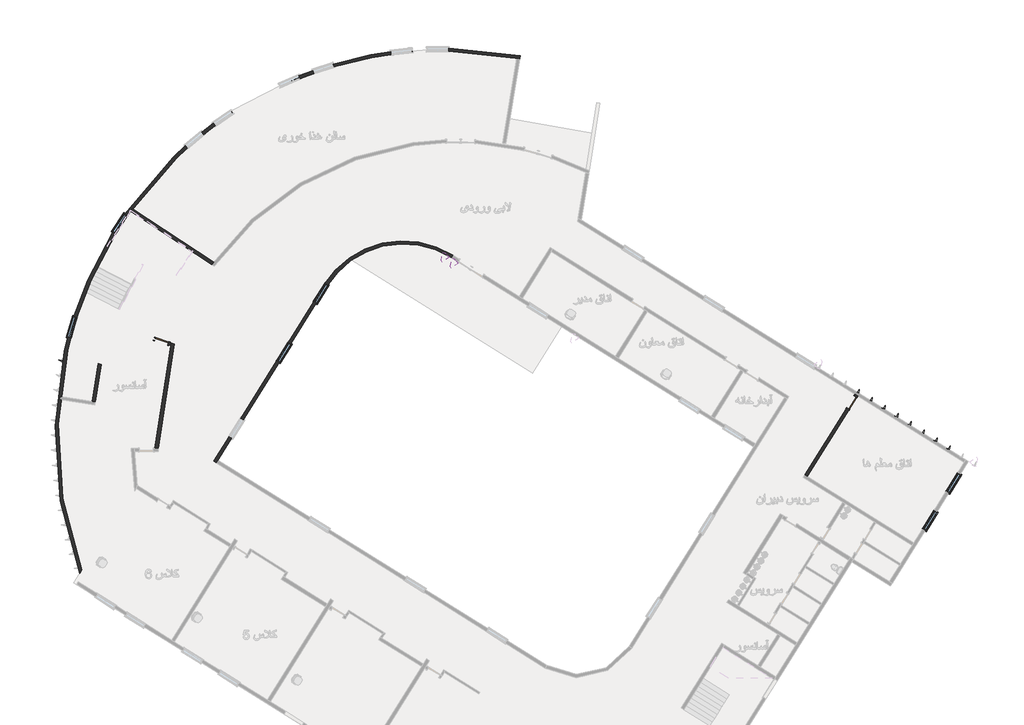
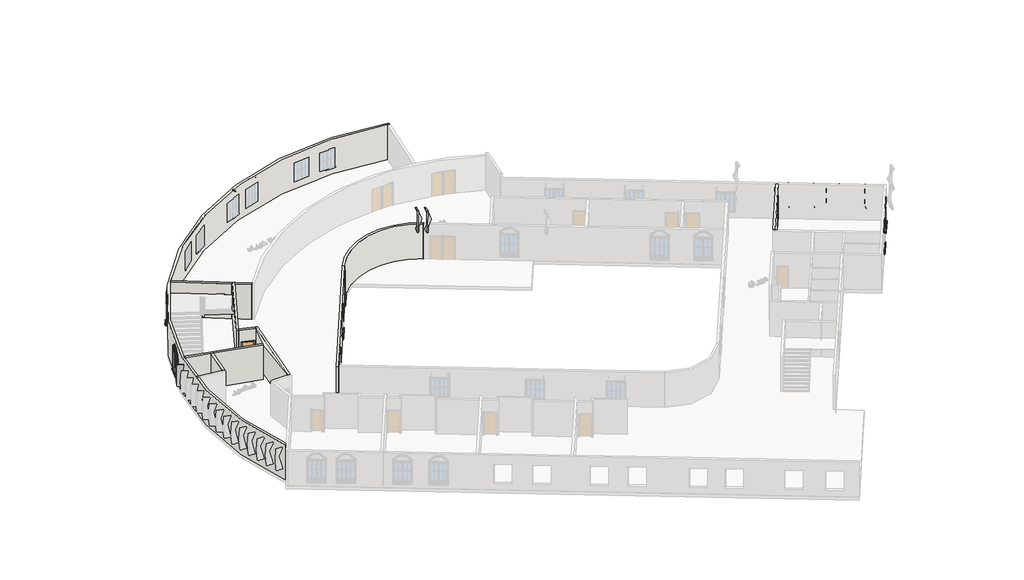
# One storey, part 3 of 12: 11 plates, 11 walls, 6 windows, 2 doors.
"""IFC4 building model written with IfcOpenShell, lengths in millimetres."""

from ifc_helpers import new_model, si_unit, point, frame, frame_2d, origin, origin_with_axes, place, context, project, spatial, polyline, circle_curve, trimmed, segment, composite_curve, outline, extrude, faceted_brep, transform, mapped, element, save
from ifc_brep_helpers import plane_surface, cylinder_surface, revolved_surface, advanced_brep
from components import m_single_flush_0915_x_2134mm_727434cd, plate_91021fb5, plate_51c6a2b6, plate_53e44fb4, m_window_casement_double_1400_x_1800mm_877d247a, m_window_casement_double_1400_x_1800mm_eb8f2d9a

model = new_model("IFC4")

# Units and contexts
model_context = context("Model", 3, world=origin())
ifc_project = project(units=[si_unit("LENGTHUNIT", "METRE", prefix="MILLI")], contexts=[model_context])

# Site, building, storey
site = spatial("IfcSite", under=ifc_project)
building = spatial("IfcBuilding", under=site)
storey = spatial("IfcBuildingStorey", under=building, Name="\u200fهمکف", Elevation=0.0)

# Doors
placement = place(None, origin())
m_single_flush_0915_x_2134mm_shape = m_single_flush_0915_x_2134mm_727434cd(model_context)
element("IfcDoor", 1, ObjectType="M_Single-Flush : 0915 x 2134mm", at=placement, inside=storey, context=model_context, shape_type="MappedRepresentation", body=[
    mapped(m_single_flush_0915_x_2134mm_shape, transform((55171.0095741, -32166.2746094, 0.0), x_axis=(0.5299192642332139, 0.8480480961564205, 0.0), y_axis=(-0.8480480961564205, 0.5299192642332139, 0.0), z_axis=(0.0, 0.0, 1.0))),
])
element("IfcDoor", 2, ObjectType="M_Single-Flush : 0915 x 2134mm", at=placement, inside=storey, context=model_context, shape_type="MappedRepresentation", body=[
    mapped(m_single_flush_0915_x_2134mm_shape, transform((10046.2970792, -28155.5122882, 0.0), x_axis=(-0.9492034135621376, 0.3146631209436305, 0.0), y_axis=(-0.3146631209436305, -0.9492034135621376, 0.0), z_axis=(0.0, 0.0, 1.0))),
])

# Plates
plate_shape = plate_91021fb5(model_context)
element("IfcPlate", 3, ObjectType="مدل پارامتریک کصینوس دار : مدل پارامتریک کصینوس دار", at=placement, inside=storey, context=model_context, shape_type="MappedRepresentation", body=[
    mapped(plate_shape, transform((26625.6475224, -21808.0883289, -150.0), x_axis=(0.0, 0.0, 1.0), y_axis=(0.848048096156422, -0.5299192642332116, 0.0), z_axis=(0.5299192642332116, 0.848048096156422, 0.0))),
])
element("IfcPlate", 4, ObjectType="مدل پارامتریک کصینوس دار : مدل پارامتریک کصینوس دار", at=placement, inside=storey, context=model_context, shape_type="MappedRepresentation", body=[
    mapped(plate_shape, transform((63342.6086999, -35789.6396169, -2050.0), x_axis=(0.0, 0.0, 1.0), y_axis=(-0.8480480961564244, 0.5299192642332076, 0.0), z_axis=(-0.5299192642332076, -0.8480480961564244, 0.0))),
])
element("IfcPlate", 5, ObjectType="مدل پارامتریک کصینوس دار : مدل پارامتریک کصینوس دار", at=placement, inside=storey, context=model_context, shape_type="MappedRepresentation", body=[
    mapped(plate_shape, transform((62494.5606037, -35259.7203527, -2050.0), x_axis=(0.0, 0.0, 1.0), y_axis=(-0.8480480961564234, 0.5299192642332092, 0.0), z_axis=(-0.5299192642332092, -0.8480480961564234, 0.0))),
])
element("IfcPlate", 6, ObjectType="مدل پارامتریک کصینوس دار : مدل پارامتریک کصینوس دار", at=placement, inside=storey, context=model_context, shape_type="MappedRepresentation", body=[
    mapped(plate_shape, transform((61646.5125076, -34729.8010885, -2050.0), x_axis=(0.0, 0.0, 1.0), y_axis=(-0.8480480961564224, 0.5299192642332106, 0.0), z_axis=(-0.5299192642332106, -0.8480480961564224, 0.0))),
])
element("IfcPlate", 7, ObjectType="مدل پارامتریک کصینوس دار : مدل پارامتریک کصینوس دار", at=placement, inside=storey, context=model_context, shape_type="MappedRepresentation", body=[
    mapped(plate_shape, transform((60798.4644114, -34199.8818242, -2050.0), x_axis=(0.0, 0.0, 1.0), y_axis=(-0.8480480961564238, 0.5299192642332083, 0.0), z_axis=(-0.5299192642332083, -0.8480480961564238, 0.0))),
])
element("IfcPlate", 8, ObjectType="مدل پارامتریک کصینوس دار : مدل پارامتریک کصینوس دار", at=placement, inside=storey, context=model_context, shape_type="MappedRepresentation", body=[
    mapped(plate_shape, transform((59950.4163152, -33669.96256, -2050.0), x_axis=(0.0, 0.0, 1.0), y_axis=(-0.8480480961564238, 0.5299192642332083, 0.0), z_axis=(-0.5299192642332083, -0.8480480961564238, 0.0))),
])
element("IfcPlate", 9, ObjectType="مدل پارامتریک کصینوس دار : مدل پارامتریک کصینوس دار", at=placement, inside=storey, context=model_context, shape_type="MappedRepresentation", body=[
    mapped(plate_shape, transform((59102.3682191, -33140.0432958, -2050.0), x_axis=(0.0, 0.0, 1.0), y_axis=(-0.8480480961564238, 0.5299192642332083, 0.0), z_axis=(-0.5299192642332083, -0.8480480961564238, 0.0))),
])
element("IfcPlate", 10, ObjectType="مدل پارامتریک کصینوس دار : مدل پارامتریک کصینوس دار", at=placement, inside=storey, context=model_context, shape_type="MappedRepresentation", body=[
    mapped(plate_shape, transform((58254.3201229, -32610.1240315, -2050.0), x_axis=(0.0, 0.0, 1.0), y_axis=(-0.848048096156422, 0.5299192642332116, 0.0), z_axis=(-0.5299192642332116, -0.848048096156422, 0.0))),
])
element("IfcPlate", 11, ObjectType="مدل پارامتریک کصینوس دار : مدل پارامتریک کصینوس دار", at=placement, inside=storey, context=model_context, shape_type="MappedRepresentation", body=[
    mapped(plate_shape, transform((57406.2720268, -32080.2047673, -2050.0), x_axis=(0.0, 0.0, 1.0), y_axis=(-0.8480480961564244, 0.5299192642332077, 0.0), z_axis=(-0.5299192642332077, -0.8480480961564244, 0.0))),
])
plate_2_shape = plate_51c6a2b6(model_context)
element("IfcPlate", 12, ObjectType="مدل پارامتریک کصینوس دار : مدل پارامتریک کصینوس دار", at=placement, inside=storey, context=model_context, shape_type="MappedRepresentation", body=[
    mapped(plate_2_shape, transform((2685.5211159, -31173.1049186, -2050.0), x_axis=(0.0, 0.0, 1.0), y_axis=(-0.19897681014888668, -0.9800041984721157, 0.0), z_axis=(0.9800041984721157, -0.19897681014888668, 0.0))),
])
plate_3_shape = plate_53e44fb4(model_context)
element("IfcPlate", 13, ObjectType="مدل پارامتریک کصینوس دار : مدل پارامتریک کصینوس دار", at=placement, inside=storey, context=model_context, shape_type="MappedRepresentation", body=[
    mapped(plate_3_shape, transform((27271.2692845, -22118.8291782, -150.0), x_axis=(0.0, 0.0, 1.0), y_axis=(0.8215058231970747, -0.5702001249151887, 0.0), z_axis=(0.5702001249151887, 0.8215058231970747, 0.0))),
])

# Walls
element("IfcWall", 14, ObjectType="Generic - 200mm", at=placement, inside=storey, context=model_context, shape_type="SweptSolid", body=[
    extrude(outline(composite_curve([segment(polyline([(13319.2946092, -23124.9971226), (8007.113091, -19649.1953048)]), True, "CONTINUOUS"), segment(trimmed(circle_curve(frame_2d((28463.2186017, -34366.1157481)), 25200.0), [point((8007.113091, -19649.1953048))], [point((8124.6948433, -19487.1221218))], False, "CARTESIAN"), True, "CONTINUOUS"), segment(polyline([(8124.6948433, -19487.1221218), (13437.2528486, -22963.1702781)]), True, "CONTINUOUS"), segment(trimmed(circle_curve(frame_2d((29284.4488792, -34638.3554793)), 19683.5863478), [point((13437.2528486, -22963.1702781))], [point((13319.2946092, -23124.9971226))], True, "CARTESIAN"), True, "CONTINUOUS")], self_intersect=False)), origin_with_axes(), (0.0, 0.0, 1.0), 3300.0),
])
element("IfcWall", 15, ObjectType="Generic - 200mm", at=placement, inside=storey, context=model_context, shape_type="AdvancedBrep", body=[
    advanced_brep(
    [(12127.9583762, -22106.4886885, 0.0), (12295.5409419, -22216.1392689, 0.0), (9371.3471797, -27826.3938849, 0.0), (9307.5063397, -28015.9529504, 0.0), (9117.665657, -27953.0203262, 0.0), (12010.6126533, -22268.7384634, 0.0), (9117.665657, -27953.0203262, 3300.0), (12010.6232883, -22268.7232659, 3300.0), (12127.9583762, -22106.4886885, 3300.0), (12295.5409419, -22216.1392689, 3300.0), (9371.3410113, -27826.4112985, 3300.0), (9307.5063397, -28015.9529504, 3300.0)],
    [
        (0, 1),
        (1, 2, circle_curve(frame((29284.4488792, -34638.3554793, 0.0), z_axis=(0.0, 0.0, 1.0), x_axis=(1.0, 0.0, 0.0)), 21046.0078989)),
        (2, 3, circle_curve(frame((29284.4488792, -34638.3554793, 0.0), z_axis=(0.0, 0.0, 1.0), x_axis=(1.0, 0.0, 0.0)), 21046.0076988)),
        (3, 4),
        (4, 5, circle_curve(frame((29284.4488792, -34638.3554793, 0.0), z_axis=(0.0, 0.0, -1.0), x_axis=(1.0, 0.0, 0.0)), 21246.0078989)),
        (5, 0, circle_curve(frame((29284.4488792, -34638.3554793, 0.0), z_axis=(0.0, 0.0, -1.0), x_axis=(1.0, 0.0, 0.0)), 21246.0076974)),
        (6, 7, circle_curve(frame((29284.4488792, -34638.3554793, 3300.0), z_axis=(0.0, 0.0, -1.0), x_axis=(1.0, 0.0, 0.0)), 21246.0078989)),
        (7, 8, circle_curve(frame((29284.4488792, -34638.3554793, 3300.0), z_axis=(0.0, 0.0, -1.0), x_axis=(1.0, 0.0, 0.0)), 21246.0078989)),
        (8, 0),
        (4, 6),
        (9, 10, circle_curve(frame((29284.4488792, -34638.3554793, 3300.0), z_axis=(0.0, 0.0, 1.0), x_axis=(1.0, 0.0, 0.0)), 21046.0078989)),
        (10, 11, circle_curve(frame((29284.4488792, -34638.3554793, 3300.0), z_axis=(0.0, 0.0, 1.0), x_axis=(1.0, 0.0, 0.0)), 21046.0078989)),
        (11, 3),
        (1, 9),
        (8, 9),
        (11, 6),
    ],
    [
        plane_surface(frame((50530.456778, -34638.3554793, 0.0), z_axis=(0.0, 0.0, -1.0), x_axis=(0.0, -1.0, 0.0))),
        cylinder_surface(frame((29284.4488792, -34638.3554793, 0.0), z_axis=(0.0, 0.0, 1.0), x_axis=(1.0, 0.0, 0.0)), 21246.0078989),
        revolved_surface(polyline([(50330.4567781, -34638.3554793, 0.0), (50330.4567781, -34638.3554793, 3300.0)]), (29284.4488792, -34638.3554793, 0.0), (0.0, 0.0, -1.0)),
        plane_surface(frame((8116.6170805, -19481.8367786, 0.0), z_axis=(0.5475199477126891, 0.8367926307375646, 0.0), x_axis=(-0.8367926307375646, 0.5475199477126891, 0.0))),
        plane_surface(frame((9117.665657, -27953.0203262, 0.0), z_axis=(-0.3146631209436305, -0.9492034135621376, 0.0), x_axis=(0.9492034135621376, -0.3146631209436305, 0.0))),
        plane_surface(frame((48968.0352269, -34638.3554793, 3300.0), z_axis=(0.0, 0.0, 1.0), x_axis=(0.0, -1.0, 0.0))),
    ],
    [
        (0, [[1, 2, 3, 4, 5, 6]]),
        (1, [[7, 8, 9, -6, -5, 10]]),
        (2, [[11, 12, 13, -3, -2, 14]]),
        (3, [[15, -14, -1, -9]]),
        (4, [[16, -10, -4, -13]]),
        (5, [[-8, -7, -16, -12, -11, -15]]),
    ],
),
])
element("IfcWall", 16, ObjectType="Generic - 200mm", at=placement, inside=storey, context=model_context, shape_type="AdvancedBrep", body=[
    advanced_brep(
    [(4833.0156697, -43121.3147404, 0.0), (4699.4334687, -43335.0909491, 0.0), (33492.5116112, -9469.0032283, 0.0), (33459.5130175, -9666.378055, 0.0), (33263.2219556, -9627.4828404, 0.0), (8124.69366, -19487.1238855, 0.0), (8007.1162807, -19649.1909014, 0.0), (3860.998434, -28909.8570334, 0.0), (3818.4498051, -29105.3777655, 0.0), (33459.5130174, -9666.378055, 3300.0), (33445.1559838, -9663.4782387, 3300.0), (33263.2393764, -9627.4860253, 3300.0), (8124.6960917, -19487.1204154, 3300.0), (8007.1143219, -19649.1935938, 3300.0), (3860.9973962, -28909.8613774, 3300.0), (3818.45007, -29105.3758743, 3300.0), (4833.0156697, -43121.3147404, 3300.0), (7029.6837379, -21113.0563563, 2400.0), (7798.757144, -19943.2161553, 2400.0), (7798.757144, -19943.2161553, 600.0), (7029.6837379, -21113.0563563, 600.0), (4098.1748863, -27933.025919, 2400.0), (4493.0312318, -26589.8623152, 2400.0), (4493.0312318, -26589.8623152, 600.0), (4098.1748863, -27933.025919, 600.0), (11729.9960516, -15523.6301613, 2400.0), (12802.2197429, -14623.4433164, 2400.0), (12802.2197429, -14623.4433164, 600.0), (11729.9960516, -15523.6301613, 600.0), (13544.9912576, -14056.3522608, 2400.0), (14695.8980144, -13259.2238915, 2400.0), (14695.8980144, -13259.2238915, 600.0), (13544.9912576, -14056.3522608, 600.0), (17817.6703365, -11525.093395, 2400.0), (19102.5546812, -10969.1507533, 2400.0), (19102.5546812, -10969.1507533, 600.0), (17817.6703365, -11525.093395, 600.0), (19990.273139, -10633.2441312, 2400.0), (21321.3327638, -10199.3313803, 2400.0), (21321.3327638, -10199.3313803, 600.0), (19990.273139, -10633.2441312, 600.0), (26422.9341497, -9248.8460049, 2400.0), (26422.9341497, -9248.8460049, 600.0), (25031.2173163, -9400.912621, 600.0), (25031.2173163, -9400.912621, 2400.0), (27403.092335, -9188.4245851, 2400.0), (28802.949203, -9168.4058697, 2400.0), (28802.949203, -9168.4058697, 600.0), (27403.092335, -9188.4245851, 600.0), (4699.4334687, -43335.0909491, 3300.0), (33476.5898768, -9465.7922872, 3300.0), (33492.5116112, -9469.0032283, 3300.0), (6862.4985942, -21003.1484444, 2400.0), (6862.4985942, -21003.1484444, 600.0), (7631.5731109, -19833.3064482, 600.0), (7631.5743187, -19833.3047169, 2400.0), (3906.2203449, -27876.5983071, 2400.0), (3906.2203449, -27876.5983071, 600.0), (4301.0772297, -26533.4326624, 600.0), (4301.0778806, -26533.4306544, 2400.0), (11601.3471011, -15370.398086, 2400.0), (11601.3471011, -15370.398086, 600.0), (12673.5723712, -14470.2098397, 600.0), (12673.5740247, -14470.2085275, 2400.0), (13431.0704621, -13891.8752906, 2400.0), (13431.0704621, -13891.8752906, 600.0), (14581.9789205, -13094.745672, 600.0), (14581.9806883, -13094.7445184, 2400.0), (17738.2176288, -11341.4690813, 2400.0), (17738.2176288, -11341.4690813, 600.0), (19023.103887, -10785.5255483, 600.0), (19023.1058467, -10785.5247637, 2400.0), (19928.2598747, -10443.0206405, 2400.0), (19928.2598747, -10443.0206405, 600.0), (21259.3214877, -10009.1071803, 600.0), (21259.3235119, -10009.1065816, 2400.0), (26401.2020275, -9049.9531707, 2400.0), (25009.4851941, -9202.0197868, 2400.0), (25009.4831028, -9202.0200738, 600.0), (26401.2020275, -9049.9531707, 600.0), (27400.2293141, -8988.3685318, 2400.0), (27400.2293141, -8988.3685318, 600.0), (28800.0882913, -8968.349728, 600.0), (28800.090402, -8968.349756, 2400.0)],
    [
        (0, 1),
        (1, 2, circle_curve(frame((28463.2186017, -34366.1157481, 0.0), z_axis=(0.0, 0.0, -1.0), x_axis=(1.0, 0.0, 0.0)), 25400.0)),
        (2, 3),
        (3, 4, circle_curve(frame((28463.2186017, -34366.1157481, 0.0), z_axis=(0.0, 0.0, 1.0), x_axis=(1.0, 0.0, 0.0)), 25200.0)),
        (4, 5, circle_curve(frame((28463.2186017, -34366.1157481, 0.0), z_axis=(0.0, 0.0, 1.0), x_axis=(1.0, 0.0, 0.0)), 25199.9998083)),
        (5, 6, circle_curve(frame((28463.2186017, -34366.1157481, 0.0), z_axis=(0.0, 0.0, 1.0), x_axis=(1.0, 0.0, 0.0)), 25199.9999137)),
        (6, 7, circle_curve(frame((28463.2186017, -34366.1157481, 0.0), z_axis=(0.0, 0.0, 1.0), x_axis=(1.0, 0.0, 0.0)), 25199.9999823)),
        (7, 8, circle_curve(frame((28463.2186017, -34366.1157481, 0.0), z_axis=(0.0, 0.0, 1.0), x_axis=(1.0, 0.0, 0.0)), 25199.9999274)),
        (8, 0, circle_curve(frame((28463.2186017, -34366.1157481, 0.0), z_axis=(0.0, 0.0, 1.0), x_axis=(1.0, 0.0, 0.0)), 25199.9998642)),
        (9, 10, circle_curve(frame((28463.2186017, -34366.1157481, 3300.0), z_axis=(0.0, 0.0, 1.0), x_axis=(1.0, 0.0, 0.0)), 25200.0)),
        (10, 11, circle_curve(frame((28463.2186017, -34366.1157481, 3300.0), z_axis=(0.0, 0.0, 1.0), x_axis=(1.0, 0.0, 0.0)), 25200.0)),
        (11, 12, circle_curve(frame((28463.2186017, -34366.1157481, 3300.0), z_axis=(0.0, 0.0, 1.0), x_axis=(1.0, 0.0, 0.0)), 25200.0)),
        (12, 13, circle_curve(frame((28463.2186017, -34366.1157481, 3300.0), z_axis=(0.0, 0.0, 1.0), x_axis=(1.0, 0.0, 0.0)), 25200.0)),
        (13, 14, circle_curve(frame((28463.2186017, -34366.1157481, 3300.0), z_axis=(0.0, 0.0, 1.0), x_axis=(1.0, 0.0, 0.0)), 25200.0)),
        (14, 15, circle_curve(frame((28463.2186017, -34366.1157481, 3300.0), z_axis=(0.0, 0.0, 1.0), x_axis=(1.0, 0.0, 0.0)), 25200.0)),
        (15, 16, circle_curve(frame((28463.2186017, -34366.1157481, 3300.0), z_axis=(0.0, 0.0, 1.0), x_axis=(1.0, 0.0, 0.0)), 25200.0)),
        (16, 0),
        (3, 9),
        (17, 18, circle_curve(frame((28463.2186017, -34366.1157481, 2400.0), z_axis=(0.0, 0.0, -1.0), x_axis=(1.0, 0.0, 0.0)), 25200.0)),
        (18, 19),
        (19, 20, circle_curve(frame((28463.2186017, -34366.1157481, 600.0), z_axis=(0.0, 0.0, 1.0), x_axis=(1.0, 0.0, 0.0)), 25200.0)),
        (20, 17),
        (21, 22, circle_curve(frame((28463.2186017, -34366.1157481, 2400.0), z_axis=(0.0, 0.0, -1.0), x_axis=(1.0, 0.0, 0.0)), 25200.0)),
        (22, 23),
        (23, 24, circle_curve(frame((28463.2186017, -34366.1157481, 600.0), z_axis=(0.0, 0.0, 1.0), x_axis=(1.0, 0.0, 0.0)), 25200.0)),
        (24, 21),
        (25, 26, circle_curve(frame((28463.2186017, -34366.1157481, 2400.0), z_axis=(0.0, 0.0, -1.0), x_axis=(1.0, 0.0, 0.0)), 25200.0)),
        (26, 27),
        (27, 28, circle_curve(frame((28463.2186017, -34366.1157481, 600.0), z_axis=(0.0, 0.0, 1.0), x_axis=(1.0, 0.0, 0.0)), 25200.0)),
        (28, 25),
        (29, 30, circle_curve(frame((28463.2186017, -34366.1157481, 2400.0), z_axis=(0.0, 0.0, -1.0), x_axis=(1.0, 0.0, 0.0)), 25200.0)),
        (30, 31),
        (31, 32, circle_curve(frame((28463.2186017, -34366.1157481, 600.0), z_axis=(0.0, 0.0, 1.0), x_axis=(1.0, 0.0, 0.0)), 25200.0)),
        (32, 29),
        (33, 34, circle_curve(frame((28463.2186017, -34366.1157481, 2400.0), z_axis=(0.0, 0.0, -1.0), x_axis=(1.0, 0.0, 0.0)), 25200.0)),
        (34, 35),
        (35, 36, circle_curve(frame((28463.2186017, -34366.1157481, 600.0), z_axis=(0.0, 0.0, 1.0), x_axis=(1.0, 0.0, 0.0)), 25200.0)),
        (36, 33),
        (37, 38, circle_curve(frame((28463.2186017, -34366.1157481, 2400.0), z_axis=(0.0, 0.0, -1.0), x_axis=(1.0, 0.0, 0.0)), 25200.0)),
        (38, 39),
        (39, 40, circle_curve(frame((28463.2186017, -34366.1157481, 600.0), z_axis=(0.0, 0.0, 1.0), x_axis=(1.0, 0.0, 0.0)), 25200.0)),
        (40, 37),
        (41, 42),
        (42, 43, circle_curve(frame((28463.2186017, -34366.1157481, 600.0), z_axis=(0.0, 0.0, 1.0), x_axis=(1.0, 0.0, 0.0)), 25200.0)),
        (43, 44),
        (44, 41, circle_curve(frame((28463.2186017, -34366.1157481, 2400.0), z_axis=(0.0, 0.0, -1.0), x_axis=(1.0, 0.0, 0.0)), 25200.0)),
        (45, 46, circle_curve(frame((28463.2186017, -34366.1157481, 2400.0), z_axis=(0.0, 0.0, -1.0), x_axis=(1.0, 0.0, 0.0)), 25200.0)),
        (46, 47),
        (47, 48, circle_curve(frame((28463.2186017, -34366.1157481, 600.0), z_axis=(0.0, 0.0, 1.0), x_axis=(1.0, 0.0, 0.0)), 25200.0)),
        (48, 45),
        (49, 50, circle_curve(frame((28463.2186017, -34366.1157481, 3300.0), z_axis=(0.0, 0.0, -1.0), x_axis=(1.0, 0.0, 0.0)), 25400.0)),
        (50, 51, circle_curve(frame((28463.2186017, -34366.1157481, 3300.0), z_axis=(0.0, 0.0, -1.0), x_axis=(1.0, 0.0, 0.0)), 25400.0)),
        (51, 2),
        (1, 49),
        (52, 53),
        (53, 54, circle_curve(frame((28463.2186017, -34366.1157481, 600.0), z_axis=(0.0, 0.0, -1.0), x_axis=(1.0, 0.0, 0.0)), 25400.0)),
        (54, 55),
        (55, 52, circle_curve(frame((28463.2186017, -34366.1157481, 2400.0), z_axis=(0.0, 0.0, 1.0), x_axis=(1.0, 0.0, 0.0)), 25400.0)),
        (56, 57),
        (57, 58, circle_curve(frame((28463.2186017, -34366.1157481, 600.0), z_axis=(0.0, 0.0, -1.0), x_axis=(1.0, 0.0, 0.0)), 25400.0)),
        (58, 59),
        (59, 56, circle_curve(frame((28463.2186017, -34366.1157481, 2400.0), z_axis=(0.0, 0.0, 1.0), x_axis=(1.0, 0.0, 0.0)), 25400.0)),
        (60, 61),
        (61, 62, circle_curve(frame((28463.2186017, -34366.1157481, 600.0), z_axis=(0.0, 0.0, -1.0), x_axis=(1.0, 0.0, 0.0)), 25400.0)),
        (62, 63),
        (63, 60, circle_curve(frame((28463.2186017, -34366.1157481, 2400.0), z_axis=(0.0, 0.0, 1.0), x_axis=(1.0, 0.0, 0.0)), 25400.0)),
        (64, 65),
        (65, 66, circle_curve(frame((28463.2186017, -34366.1157481, 600.0), z_axis=(0.0, 0.0, -1.0), x_axis=(1.0, 0.0, 0.0)), 25400.0)),
        (66, 67),
        (67, 64, circle_curve(frame((28463.2186017, -34366.1157481, 2400.0), z_axis=(0.0, 0.0, 1.0), x_axis=(1.0, 0.0, 0.0)), 25400.0)),
        (68, 69),
        (69, 70, circle_curve(frame((28463.2186017, -34366.1157481, 600.0), z_axis=(0.0, 0.0, -1.0), x_axis=(1.0, 0.0, 0.0)), 25400.0)),
        (70, 71),
        (71, 68, circle_curve(frame((28463.2186017, -34366.1157481, 2400.0), z_axis=(0.0, 0.0, 1.0), x_axis=(1.0, 0.0, 0.0)), 25400.0)),
        (72, 73),
        (73, 74, circle_curve(frame((28463.2186017, -34366.1157481, 600.0), z_axis=(0.0, 0.0, -1.0), x_axis=(1.0, 0.0, 0.0)), 25400.0)),
        (74, 75),
        (75, 72, circle_curve(frame((28463.2186017, -34366.1157481, 2400.0), z_axis=(0.0, 0.0, 1.0), x_axis=(1.0, 0.0, 0.0)), 25400.0)),
        (76, 77, circle_curve(frame((28463.2186017, -34366.1157481, 2400.0), z_axis=(0.0, 0.0, 1.0), x_axis=(1.0, 0.0, 0.0)), 25400.0)),
        (77, 78),
        (78, 79, circle_curve(frame((28463.2186017, -34366.1157481, 600.0), z_axis=(0.0, 0.0, -1.0), x_axis=(1.0, 0.0, 0.0)), 25400.0)),
        (79, 76),
        (80, 81),
        (81, 82, circle_curve(frame((28463.2186017, -34366.1157481, 600.0), z_axis=(0.0, 0.0, -1.0), x_axis=(1.0, 0.0, 0.0)), 25400.0)),
        (82, 83),
        (83, 80, circle_curve(frame((28463.2186017, -34366.1157481, 2400.0), z_axis=(0.0, 0.0, 1.0), x_axis=(1.0, 0.0, 0.0)), 25400.0)),
        (16, 49),
        (51, 9),
        (52, 17),
        (20, 53),
        (19, 54),
        (18, 55),
        (56, 21),
        (24, 57),
        (23, 58),
        (22, 59),
        (60, 25),
        (28, 61),
        (27, 62),
        (26, 63),
        (64, 29),
        (32, 65),
        (31, 66),
        (30, 67),
        (68, 33),
        (36, 69),
        (35, 70),
        (34, 71),
        (72, 37),
        (40, 73),
        (39, 74),
        (38, 75),
        (41, 76),
        (79, 42),
        (78, 43),
        (77, 44),
        (80, 45),
        (48, 81),
        (47, 82),
        (46, 83),
        (50, 10),
    ],
    [
        plane_surface(frame((53663.2186017, -34366.1157481, 0.0), z_axis=(0.0, 0.0, -1.0), x_axis=(0.0, 1.0, 0.0))),
        revolved_surface(polyline([(53663.2186017, -34366.1157481, 0.0), (53663.2186017, -34366.1157481, 3300.0)]), (28463.2186017, -34366.1157481, 0.0), (0.0, 0.0, -1.0)),
        cylinder_surface(frame((28463.2186017, -34366.1157481, 0.0), z_axis=(0.0, 0.0, 1.0), x_axis=(1.0, 0.0, 0.0)), 25400.0),
        plane_surface(frame((4413.835552, -43792.1431566, 0.0), z_axis=(0.8480480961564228, -0.5299192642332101, 0.0), x_axis=(-0.5299192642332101, -0.8480480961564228, 0.0))),
        plane_surface(frame((33460.501445, -9660.4659632, 0.0), z_axis=(0.9863105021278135, -0.16489873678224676, 0.0), x_axis=(0.16489873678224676, 0.9863105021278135, 0.0))),
        plane_surface(frame((6862.4985942, -21003.1484444, 2400.0), z_axis=(0.5493293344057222, 0.8356059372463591, 0.0), x_axis=(0.8356059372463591, -0.5493293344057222, 0.0))),
        plane_surface(frame((6862.4997048, -21003.1466492, 600.0), z_axis=(0.0, 0.0, 1.0), x_axis=(0.8356001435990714, -0.5493381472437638, 0.0))),
        plane_surface(frame((7631.5743187, -19833.3047169, 600.0), z_axis=(-0.5493469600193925, -0.8355943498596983, 0.0), x_axis=(0.8355943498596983, -0.5493469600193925, 0.0))),
        plane_surface(frame((7631.5731109, -19833.3064482, 2400.0), z_axis=(0.0, 0.0, -1.0), x_axis=(0.8356001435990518, -0.5493381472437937, 0.0))),
        plane_surface(frame((3906.2203449, -27876.5983071, 2400.0), z_axis=(0.2820301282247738, 0.9594055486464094, 0.0), x_axis=(0.9594055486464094, -0.2820301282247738, 0.0))),
        plane_surface(frame((3906.2208842, -27876.5962662, 600.0), z_axis=(0.0, 0.0, 1.0000000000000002), x_axis=(0.9594025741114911, -0.28204024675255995, 0.0))),
        plane_surface(frame((4301.0778806, -26533.4306544, 600.0), z_axis=(-0.2820503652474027, -0.959399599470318, 0.0), x_axis=(0.959399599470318, -0.2820503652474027, 0.0))),
        plane_surface(frame((4301.0772297, -26533.4326624, 2400.0), z_axis=(0.0, 0.0, -1.0), x_axis=(0.9594025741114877, -0.2820402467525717, 0.0))),
        plane_surface(frame((11601.3471011, -15370.398086, 2400.0), z_axis=(0.7658672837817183, 0.6429986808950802, 0.0), x_axis=(0.6429986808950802, -0.7658672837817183, 0.0))),
        plane_surface(frame((11601.3486798, -15370.3966846, 600.0), z_axis=(0.0, 0.0, 1.0000000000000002), x_axis=(0.6429906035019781, -0.7658740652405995, 0.0))),
        plane_surface(frame((12673.5740247, -14470.2085275, 600.0), z_axis=(-0.7658808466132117, -0.6429825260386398, 0.0), x_axis=(0.6429825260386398, -0.7658808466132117, 0.0))),
        plane_surface(frame((12673.5723712, -14470.2098397, 2400.0), z_axis=(0.0, 0.0, -1.0000000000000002), x_axis=(0.6429906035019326, -0.7658740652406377, 0.0))),
        plane_surface(frame((13431.0704621, -13891.8752906, 2400.0), z_axis=(0.8220702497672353, 0.5693860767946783, 0.0), x_axis=(0.5693860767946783, -0.8220702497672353, 0.0))),
        plane_surface(frame((13431.0721637, -13891.8740414, 600.0), z_axis=(0.0, 0.0, 1.0), x_axis=(0.5693774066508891, -0.8220762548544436, 0.0))),
        plane_surface(frame((14581.9806883, -13094.7445184, 600.0), z_axis=(-0.8220822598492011, -0.5693687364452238, 0.0), x_axis=(0.5693687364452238, -0.8220822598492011, 0.0))),
        plane_surface(frame((14581.9789205, -13094.745672, 2400.0), z_axis=(0.0, 0.0, -1.0000000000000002), x_axis=(0.569377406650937, -0.8220762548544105, 0.0))),
        plane_surface(frame((17738.2176288, -11341.4690813, 2400.0), z_axis=(0.9177703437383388, 0.39711156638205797, 0.0), x_axis=(0.39711156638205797, -0.9177703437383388, 0.0))),
        plane_surface(frame((17738.2195423, -11341.46819, 600.0), z_axis=(0.0, 0.0, 1.0), x_axis=(0.3971018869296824, -0.9177745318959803, 0.0))),
        plane_surface(frame((19023.1058467, -10785.5247637, 600.0), z_axis=(-0.9177787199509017, -0.39709220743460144, 0.0), x_axis=(0.39709220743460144, -0.9177787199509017, 0.0))),
        plane_surface(frame((19023.103887, -10785.5255483, 2400.0), z_axis=(0.0, 0.0, -1.0000000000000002), x_axis=(0.39710188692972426, -0.9177745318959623, 0.0))),
        plane_surface(frame((19928.2598747, -10443.0206405, 2400.0), z_axis=(0.9507536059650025, 0.30994770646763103, 0.0), x_axis=(0.30994770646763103, -0.9507536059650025, 0.0))),
        plane_surface(frame((19928.2618629, -10443.0199312, 600.0), z_axis=(0.0, 0.0, 1.0000000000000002), x_axis=(0.30993767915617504, -0.9507568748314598, 0.0))),
        plane_surface(frame((21259.3235119, -10009.1065816, 600.0), z_axis=(-0.9507601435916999, -0.3099276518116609, 0.0), x_axis=(0.3099276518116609, -0.9507601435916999, 0.0))),
        plane_surface(frame((21259.3214877, -10009.1071803, 2400.0), z_axis=(0.0, 0.0, -1.0), x_axis=(0.3099376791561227, -0.9507568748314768, 0.0))),
        plane_surface(frame((26422.9341497, -9248.8460049, 2400.0), z_axis=(-0.994084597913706, -0.1086085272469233, 0.0), x_axis=(-0.1086085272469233, 0.994084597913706, 0.0))),
        plane_surface(frame((26422.9341497, -9248.8460049, 600.0), z_axis=(0.0, 0.0, 1.0), x_axis=(-0.10861901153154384, 0.9940834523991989, 0.0))),
        plane_surface(frame((25031.2173163, -9400.912621, 600.0), z_axis=(0.9940823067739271, 0.10862949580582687, 0.0), x_axis=(-0.10862949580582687, 0.9940823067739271, 0.0))),
        plane_surface(frame((25031.2173163, -9400.912621, 2400.0), z_axis=(0.0, 0.0, -1.0), x_axis=(-0.10861901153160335, 0.9940834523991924, 0.0))),
        plane_surface(frame((27400.2293141, -8988.3685318, 2400.0), z_axis=(0.9998976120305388, 0.014309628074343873, 0.0), x_axis=(0.014309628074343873, -0.9998976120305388, 0.0))),
        plane_surface(frame((27400.2314232, -8988.3684435, 600.0), z_axis=(0.0, 0.0, 1.0), x_axis=(0.014299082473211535, -0.9998977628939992, 0.0))),
        plane_surface(frame((28800.090402, -8968.349756, 600.0), z_axis=(-0.9998979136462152, -0.014288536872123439, 0.0), x_axis=(0.014288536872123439, -0.9998979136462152, 0.0))),
        plane_surface(frame((28800.0882913, -8968.349728, 2400.0), z_axis=(0.0, 0.0, -1.0000000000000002), x_axis=(0.014299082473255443, -0.9998977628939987, 0.0))),
        plane_surface(frame((53663.2186017, -34366.1157481, 3300.0), z_axis=(0.0, 0.0, 1.0), x_axis=(0.0, -1.0, 0.0))),
        plane_surface(frame((48968.0352269, -34638.3554793, 3300.0), z_axis=(0.0, 0.0, 1.0), x_axis=(0.0, -1.0, 0.0))),
    ],
    [
        (0, [[1, 2, 3, 4, 5, 6, 7, 8, 9]]),
        (1, [[10, 11, 12, 13, 14, 15, 16, 17, -9, -8, -7, -6, -5, -4, 18], [19, 20, 21, 22], [23, 24, 25, 26], [27, 28, 29, 30], [31, 32, 33, 34], [35, 36, 37, 38], [39, 40, 41, 42], [43, 44, 45, 46], [47, 48, 49, 50]]),
        (2, [[51, 52, 53, -2, 54], [55, 56, 57, 58], [59, 60, 61, 62], [63, 64, 65, 66], [67, 68, 69, 70], [71, 72, 73, 74], [75, 76, 77, 78], [79, 80, 81, 82], [83, 84, 85, 86]]),
        (3, [[87, -54, -1, -17]]),
        (4, [[88, -18, -3, -53]]),
        (5, [[-55, 89, -22, 90]]),
        (6, [[-56, -90, -21, 91]]),
        (7, [[-57, -91, -20, 92]]),
        (8, [[-58, -92, -19, -89]]),
        (9, [[-59, 93, -26, 94]]),
        (10, [[-60, -94, -25, 95]]),
        (11, [[-61, -95, -24, 96]]),
        (12, [[-62, -96, -23, -93]]),
        (13, [[-63, 97, -30, 98]]),
        (14, [[-64, -98, -29, 99]]),
        (15, [[-65, -99, -28, 100]]),
        (16, [[-66, -100, -27, -97]]),
        (17, [[-67, 101, -34, 102]]),
        (18, [[-68, -102, -33, 103]]),
        (19, [[-69, -103, -32, 104]]),
        (20, [[-70, -104, -31, -101]]),
        (21, [[-71, 105, -38, 106]]),
        (22, [[-72, -106, -37, 107]]),
        (23, [[-73, -107, -36, 108]]),
        (24, [[-74, -108, -35, -105]]),
        (25, [[-75, 109, -42, 110]]),
        (26, [[-76, -110, -41, 111]]),
        (27, [[-77, -111, -40, 112]]),
        (28, [[-78, -112, -39, -109]]),
        (29, [[-43, 113, -82, 114]]),
        (30, [[-44, -114, -81, 115]]),
        (31, [[-45, -115, -80, 116]]),
        (32, [[-46, -116, -79, -113]]),
        (33, [[-83, 117, -50, 118]]),
        (34, [[-84, -118, -49, 119]]),
        (35, [[-85, -119, -48, 120]]),
        (36, [[-86, -120, -47, -117]]),
        (37, [[-10, -88, -52, 121]]),
        (38, [[-16, -15, -14, -13, -12, -11, -121, -51, -87]]),
    ],
),
])
element("IfcWall", 17, ObjectType="Generic - 200mm", at=placement, inside=storey, context=model_context, shape_type="SweptSolid", body=[
    extrude(outline(composite_curve([segment(polyline([(12010.6232883, -22268.7232659), (8007.113091, -19649.1953048)]), True, "CONTINUOUS"), segment(trimmed(circle_curve(frame_2d((28463.2186017, -34366.1157481)), 25200.0), [point((8007.113091, -19649.1953048))], [point((8124.6948433, -19487.1221218))], False, "CARTESIAN"), True, "CONTINUOUS"), segment(polyline([(8124.6948433, -19487.1221218), (12127.9583762, -22106.4886885)]), True, "CONTINUOUS"), segment(trimmed(circle_curve(frame_2d((29284.4488792, -34638.3554793)), 21246.0078989), [point((12127.9583762, -22106.4886885))], [point((12010.6232883, -22268.7232659))], True, "CARTESIAN"), True, "CONTINUOUS")], self_intersect=False)), origin_with_axes(), (0.0, 0.0, 1.0), 3300.0),
])
element("IfcWall", 18, ObjectType="Generic - 200mm", at=placement, inside=storey, context=model_context, shape_type="AdvancedBrep", body=[
    advanced_brep(
    [(9307.5063397, -28015.9529504, 0.0), (9580.5702054, -28106.4742517, 0.0), (9580.5702054, -28106.4742517, 2134.0), (10449.0913288, -28394.3910074, 2134.0), (10449.0913288, -28394.3910074, 0.0), (10600.7215267, -28444.6567677, 0.0), (10600.7215267, -28444.6567677, 3300.0), (9307.5063397, -28015.9529504, 3300.0), (9643.5028296, -27916.633569, 2134.0), (9643.5028296, -27916.633569, 0.0), (9371.3410113, -27826.4112985, 0.0), (9371.3410113, -27826.4112985, 3300.0), (10664.6186376, -28255.1358146, 3300.0), (10664.6186376, -28255.1358146, 0.0), (10512.023953, -28204.5503247, 0.0), (10512.023953, -28204.5503247, 2134.0)],
    [
        (0, 1),
        (1, 2),
        (2, 3),
        (3, 4),
        (4, 5),
        (5, 6),
        (6, 7),
        (7, 0),
        (8, 9),
        (9, 10),
        (10, 11),
        (11, 12),
        (12, 13),
        (13, 14),
        (14, 15),
        (15, 8),
        (13, 5, circle_curve(frame((29284.4488792, -34638.3554793, 0.0), z_axis=(0.0, 0.0, 1.0), x_axis=(1.0, 0.0, 0.0)), 19683.5863478)),
        (4, 14),
        (9, 1),
        (0, 10, circle_curve(frame((29284.4488792, -34638.3554793, 0.0), z_axis=(0.0, 0.0, -1.0), x_axis=(1.0, 0.0, 0.0)), 21046.0078989)),
        (7, 11, circle_curve(frame((29284.4488792, -34638.3554793, 3300.0), z_axis=(0.0, 0.0, -1.0), x_axis=(1.0, 0.0, 0.0)), 21046.0078989)),
        (12, 6, circle_curve(frame((29284.4488792, -34638.3554793, 3300.0), z_axis=(0.0, 0.0, 1.0), x_axis=(1.0, 0.0, 0.0)), 19683.5863478)),
        (8, 2),
        (15, 3),
    ],
    [
        plane_surface(frame((9117.665657, -27953.0203262, 0.0), z_axis=(-0.3146631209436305, -0.9492034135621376, 0.0), x_axis=(0.9492034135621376, -0.3146631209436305, 0.0))),
        plane_surface(frame((9180.5982812, -27763.1796435, 0.0), z_axis=(0.3146631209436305, 0.9492034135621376, 0.0), x_axis=(-0.9492034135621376, 0.3146631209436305, 0.0))),
        plane_surface(frame((9212.8104399, -27984.5610412, 0.0), z_axis=(0.0, 0.0, -1.0000000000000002), x_axis=(0.3146631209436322, 0.949203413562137, 0.0))),
        cylinder_surface(frame((29284.4488792, -34638.3554793, 0.0), z_axis=(0.0, 0.0, -1.0), x_axis=(1.0, 0.0, 0.0)), 21046.0078989),
        revolved_surface(polyline([(48968.035227, -34638.3554793, 3300.0), (48968.035227, -34638.3554793, 0.0)]), (29284.4488792, -34638.3554793, 0.0), (0.0, 0.0, 1.0)),
        plane_surface(frame((9580.5702054, -28106.4742517, 0.0), z_axis=(0.9492034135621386, -0.3146631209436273, 0.0), x_axis=(0.3146631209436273, 0.9492034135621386, 0.0))),
        plane_surface(frame((9580.5702054, -28106.4742517, 2134.0), z_axis=(0.0, 0.0, -1.0), x_axis=(0.3146631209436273, 0.9492034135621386, 0.0))),
        plane_surface(frame((10449.0913288, -28394.3910074, 2134.0), z_axis=(-0.9492034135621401, 0.3146631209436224, 0.0), x_axis=(0.3146631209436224, 0.9492034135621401, 0.0))),
        plane_surface(frame((48968.0352269, -34638.3554793, 3300.0), z_axis=(0.0, 0.0, 1.0), x_axis=(0.0, -1.0, 0.0))),
    ],
    [
        (0, [[1, 2, 3, 4, 5, 6, 7, 8]]),
        (1, [[9, 10, 11, 12, 13, 14, 15, 16]]),
        (2, [[-14, 17, -5, 18]]),
        (2, [[-10, 19, -1, 20]]),
        (3, [[-8, 21, -11, -20]]),
        (4, [[-6, -17, -13, 22]]),
        (5, [[-2, -19, -9, 23]]),
        (6, [[-3, -23, -16, 24]]),
        (7, [[-4, -24, -15, -18]]),
        (8, [[-7, -22, -12, -21]]),
    ],
),
])
element("IfcWall", 19, ObjectType="Generic - 200mm", at=placement, inside=storey, context=model_context, shape_type="AdvancedBrep", body=[
    advanced_brep(
    [(3818.4497734, -29105.3772639, 0.0), (5894.1620192, -29622.9104526, 0.0), (6088.9624389, -29671.4796522, 0.0), (10009.3816919, -30648.9499549, 0.0), (10009.3816919, -30648.9499549, 3300.0), (6088.9624389, -29671.4796522, 3300.0), (5894.1620192, -29622.9104526, 3300.0), (3818.4497734, -29105.3772639, 3300.0), (3860.9970863, -28909.8627746, 0.0), (3860.9970863, -28909.8627746, 3300.0), (10050.9378243, -30453.1883365, 3300.0), (10050.9378243, -30453.1883365, 0.0)],
    [
        (0, 1),
        (1, 2),
        (2, 3),
        (3, 4),
        (4, 5),
        (5, 6),
        (6, 7),
        (7, 0),
        (8, 9),
        (9, 10),
        (10, 11),
        (11, 8),
        (0, 8, circle_curve(frame((28463.2186017, -34366.1157481, 0.0), z_axis=(0.0, 0.0, -1.0), x_axis=(1.0, 0.0, 0.0)), 25200.0)),
        (11, 3, circle_curve(frame((29284.4488792, -34638.3554793, 0.0), z_axis=(0.0, 0.0, 1.0), x_axis=(1.0, 0.0, 0.0)), 19683.5863478)),
        (10, 4, circle_curve(frame((29284.4488792, -34638.3554793, 3300.0), z_axis=(0.0, 0.0, 1.0), x_axis=(1.0, 0.0, 0.0)), 19683.5863478)),
        (7, 9, circle_curve(frame((28463.2186017, -34366.1157481, 3300.0), z_axis=(0.0, 0.0, -1.0), x_axis=(1.0, 0.0, 0.0)), 25200.0)),
    ],
    [
        plane_surface(frame((6088.9624389, -29671.4796522, 0.0), z_axis=(-0.24192189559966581, -0.970295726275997, 0.0), x_axis=(0.970295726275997, -0.24192189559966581, 0.0))),
        plane_surface(frame((6137.346818, -29477.420507, 0.0), z_axis=(0.24192189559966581, 0.970295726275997, 0.0), x_axis=(-0.970295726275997, 0.24192189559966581, 0.0))),
        plane_surface(frame((3718.2651778, -29080.3984387, 0.0), z_axis=(0.0, 0.0, -1.0), x_axis=(0.2419218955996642, 0.9702957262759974, 0.0))),
        revolved_surface(polyline([(48968.035227, -34638.3554793, 3300.0), (48968.035227, -34638.3554793, 0.0)]), (29284.4488792, -34638.3554793, 0.0), (0.0, 0.0, 1.0)),
        cylinder_surface(frame((28463.2186017, -34366.1157481, 0.0), z_axis=(0.0, 0.0, -1.0), x_axis=(1.0, 0.0, 0.0)), 25200.0),
        plane_surface(frame((48968.0352269, -34638.3554793, 3300.0), z_axis=(0.0, 0.0, 1.0), x_axis=(0.0, -1.0, 0.0))),
    ],
    [
        (0, [[1, 2, 3, 4, 5, 6, 7, 8]]),
        (1, [[9, 10, 11, 12]]),
        (2, [[-3, -2, -1, 13, -12, 14]]),
        (3, [[-4, -14, -11, 15]]),
        (4, [[-8, 16, -9, -13]]),
        (5, [[-7, -6, -5, -15, -10, -16]]),
    ],
),
])
element("IfcWall", 20, ObjectType="Generic - 200mm", at=placement, inside=storey, context=model_context, shape_type="SweptSolid", body=[
    extrude(outline(polyline([(915.0, -2134.0), (915.0, 0.0), (1015.0, 0.0), (1015.0, -3300.0), (-5185.0, -3300.0), (-5185.0, 0.0), (0.0, 0.0), (0.0, -2134.0), (915.0, -2134.0)])), frame((55013.3763203, -32607.2485398, 0.0), z_axis=(-0.8480480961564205, 0.5299192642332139, 0.0), x_axis=(0.5299192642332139, 0.8480480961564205, 0.0)), (0.0, 0.0, 1.0), 200.0),
])
element("IfcWall", 21, ObjectType="Generic - 200mm", at=placement, inside=storey, context=model_context, shape_type="Brep", body=[
    faceted_brep([(20668.7064083, -24453.3451923, 0.0), (13454.385545, -35998.6719733, 0.0), (13454.385545, -35998.6719733, 3300.0), (20668.7064083, -24453.3451923, 3300.0), (20668.7064083, -24453.3451923, 2400.0), (19979.8113648, -25555.8077173, 2400.0), (19979.8113648, -25555.8077173, 600.0), (20668.7064083, -24453.3451923, 600.0), (14461.2321471, -34387.3805906, 2400.0), (14461.2321471, -34387.3805906, 600.0), (15203.119117, -33200.113256, 600.0), (15203.119117, -33200.113256, 2400.0), (17564.9692777, -29420.3628915, 2400.0), (17564.9692777, -29420.3628915, 600.0), (18306.8562476, -28233.0955568, 600.0), (18306.8562476, -28233.0955568, 2400.0), (13623.9951643, -36104.6558262, 0.0), (13729.9790171, -35935.046207, 0.0), (20838.3160275, -24559.3290451, 0.0), (20838.3160275, -24559.3290451, 600.0), (20149.420984, -25661.7915701, 600.0), (20149.420984, -25661.7915701, 2400.0), (20838.3160275, -24559.3290451, 2400.0), (20838.3160275, -24559.3290451, 3300.0), (13729.9790171, -35935.046207, 3300.0), (13623.9951643, -36104.6558262, 3300.0), (14630.8417663, -34493.3644435, 2400.0), (15372.7287362, -33306.0971089, 2400.0), (15372.7287362, -33306.0971089, 600.0), (14630.8417663, -34493.3644435, 600.0), (17734.5788969, -29526.3467443, 2400.0), (18476.4658668, -28339.0794097, 2400.0), (18476.4658668, -28339.0794097, 600.0), (17734.5788969, -29526.3467443, 600.0)], [[[0, 1, 2, 3, 4, 5, 6, 7], [8, 9, 10, 11], [12, 13, 14, 15]], [[16, 17, 18, 19, 20, 21, 22, 23, 24, 25], [26, 27, 28, 29], [30, 31, 32, 33]], [[1, 0, 18, 17, 16]], [[18, 0, 7, 19]], [[3, 23, 22, 4]], [[2, 1, 16, 25]], [[3, 2, 25, 24, 23]], [[9, 8, 26, 29]], [[10, 9, 29, 28]], [[11, 10, 28, 27]], [[8, 11, 27, 26]], [[13, 12, 30, 33]], [[14, 13, 33, 32]], [[15, 14, 32, 31]], [[12, 15, 31, 30]], [[5, 21, 20, 6]], [[6, 20, 19, 7]], [[21, 5, 4, 22]]]),
])
element("IfcWall", 22, ObjectType="Generic - 200mm", at=placement, inside=storey, context=model_context, shape_type="AdvancedBrep", body=[
    advanced_brep(
    [(10664.6186376, -28255.1358146, 0.0), (10854.4692214, -28318.071721, 0.0), (9807.874288, -35161.0209227, 0.0), (9607.803018, -35161.0209227, 0.0), (10009.3822388, -30648.9473164, 0.0), (10050.9380095, -30453.188073, 0.0), (10600.7163442, -28444.6729532, 0.0), (9607.803018, -35161.0209227, 3300.0), (10009.3820848, -30648.9480564, 3300.0), (10050.9382226, -30453.186506, 3300.0), (10600.7215267, -28444.6567677, 3300.0), (10664.6186376, -28255.1358146, 3300.0), (10854.4692214, -28318.071721, 3300.0), (9807.874288, -35161.0209227, 3300.0)],
    [
        (0, 1),
        (1, 2, circle_curve(frame((29284.4488792, -34638.3554793, 0.0), z_axis=(0.0, 0.0, 1.0), x_axis=(1.0, 0.0, 0.0)), 19483.5863478)),
        (2, 3),
        (3, 4, circle_curve(frame((29284.4488792, -34638.3554793, 0.0), z_axis=(0.0, 0.0, -1.0), x_axis=(1.0, 0.0, 0.0)), 19683.5863478)),
        (4, 5, circle_curve(frame((29284.4488792, -34638.3554793, 0.0), z_axis=(0.0, 0.0, -1.0), x_axis=(1.0, 0.0, 0.0)), 19683.586347)),
        (5, 6, circle_curve(frame((29284.4488792, -34638.3554793, 0.0), z_axis=(0.0, 0.0, -1.0), x_axis=(1.0, 0.0, 0.0)), 19683.5862228)),
        (6, 0, circle_curve(frame((29284.4488792, -34638.3554793, 0.0), z_axis=(0.0, 0.0, -1.0), x_axis=(1.0, 0.0, 0.0)), 19683.5861741)),
        (7, 8, circle_curve(frame((29284.4488792, -34638.3554793, 3300.0), z_axis=(0.0, 0.0, -1.0), x_axis=(1.0, 0.0, 0.0)), 19683.5863478)),
        (8, 9, circle_curve(frame((29284.4488792, -34638.3554793, 3300.0), z_axis=(0.0, 0.0, -1.0), x_axis=(1.0, 0.0, 0.0)), 19683.5863478)),
        (9, 10, circle_curve(frame((29284.4488792, -34638.3554793, 3300.0), z_axis=(0.0, 0.0, -1.0), x_axis=(1.0, 0.0, 0.0)), 19683.5863478)),
        (10, 11, circle_curve(frame((29284.4488792, -34638.3554793, 3300.0), z_axis=(0.0, 0.0, -1.0), x_axis=(1.0, 0.0, 0.0)), 19683.5863478)),
        (11, 0),
        (3, 7),
        (12, 13, circle_curve(frame((29284.4488792, -34638.3554793, 3300.0), z_axis=(0.0, 0.0, 1.0), x_axis=(1.0, 0.0, 0.0)), 19483.5863478)),
        (13, 2),
        (1, 12),
        (13, 7),
        (11, 12),
    ],
    [
        plane_surface(frame((48968.0352269, -34638.3554793, 0.0), z_axis=(0.0, 0.0, -1.0), x_axis=(0.0, -1.0, 0.0))),
        cylinder_surface(frame((29284.4488792, -34638.3554793, 0.0), z_axis=(0.0, 0.0, 1.0), x_axis=(1.0, 0.0, 0.0)), 19683.5863478),
        revolved_surface(polyline([(48768.035227, -34638.3554793, 0.0), (48768.035227, -34638.3554793, 3300.0)]), (29284.4488792, -34638.3554793, 0.0), (0.0, 0.0, -1.0)),
        plane_surface(frame((8250.8518702, -35161.0209227, 0.0), z_axis=(0.0, -1.0, 0.0), x_axis=(-1.0, 0.0, 0.0))),
        plane_surface(frame((9180.5982812, -27763.1796435, 0.0), z_axis=(0.3146631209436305, 0.9492034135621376, 0.0), x_axis=(-0.9492034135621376, 0.3146631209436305, 0.0))),
        plane_surface(frame((48968.0352269, -34638.3554793, 3300.0), z_axis=(0.0, 0.0, 1.0), x_axis=(0.0, -1.0, 0.0))),
    ],
    [
        (0, [[1, 2, 3, 4, 5, 6, 7]]),
        (1, [[8, 9, 10, 11, 12, -7, -6, -5, -4, 13]]),
        (2, [[14, 15, -2, 16]]),
        (3, [[17, -13, -3, -15]]),
        (4, [[18, -16, -1, -12]]),
        (5, [[-11, -10, -9, -8, -17, -14, -18]]),
    ],
),
])
element("IfcWall", 23, ObjectType="Generic - 200mm", at=placement, inside=storey, context=model_context, shape_type="SweptSolid", body=[
    extrude(outline(polyline([(6088.9624389, -29671.4796522), (5702.0784662, -32114.1689208), (5504.5407981, -32082.8820278), (5894.1620192, -29622.9104526), (6088.9624389, -29671.4796522)])), origin_with_axes(), (0.0, 0.0, 1.0), 3300.0),
])
element("IfcWall", 24, ObjectType="Generic - 200mm", at=placement, inside=storey, context=model_context, shape_type="AdvancedBrep", body=[
    advanced_brep(
    [(20668.7064083, -24453.3451923, 0.0), (29074.3073067, -22512.7593175, 0.0), (28968.3234538, -22682.3689368, 0.0), (20838.3160275, -24559.3290451, 0.0), (20668.7064083, -24453.3451923, 600.0), (20722.3935028, -24368.9747719, 600.0), (20722.3935028, -24368.9747719, 2400.0), (20668.7064083, -24453.3451923, 2400.0), (20668.7064083, -24453.3451923, 3300.0), (29074.3073067, -22512.7593175, 3300.0), (20838.3160275, -24559.3290451, 600.0), (20838.3160275, -24559.3290451, 3300.0), (20838.3160275, -24559.3290451, 2400.0), (28968.3234538, -22682.3689368, 3300.0), (20891.307954, -24474.5242355, 2400.0), (20891.307954, -24474.5242355, 600.0)],
    [
        (0, 1, circle_curve(frame((25841.7997949, -27685.8527041, 0.0), z_axis=(0.0, 0.0, -1.0), x_axis=(1.0, 0.0, 0.0)), 6100.0)),
        (1, 2),
        (2, 3, circle_curve(frame((25841.7997949, -27685.8527041, 0.0), z_axis=(0.0, 0.0, 1.0), x_axis=(1.0, 0.0, 0.0)), 5900.0)),
        (3, 0),
        (0, 4),
        (4, 5, circle_curve(frame((25841.7997949, -27685.8527041, 600.0), z_axis=(0.0, 0.0, -1.0), x_axis=(1.0, 0.0, 0.0)), 6100.0)),
        (5, 6),
        (6, 7, circle_curve(frame((25841.7997949, -27685.8527041, 2400.0), z_axis=(0.0, 0.0, 1.0), x_axis=(1.0, 0.0, 0.0)), 6100.0)),
        (7, 8),
        (8, 9, circle_curve(frame((25841.7997949, -27685.8527041, 3300.0), z_axis=(0.0, 0.0, -1.0), x_axis=(1.0, 0.0, 0.0)), 6100.0)),
        (9, 1),
        (3, 10),
        (10, 4),
        (11, 8),
        (7, 12),
        (12, 11),
        (2, 13),
        (13, 11, circle_curve(frame((25841.7997949, -27685.8527041, 3300.0), z_axis=(0.0, 0.0, 1.0), x_axis=(1.0, 0.0, 0.0)), 5900.0)),
        (12, 10),
        (9, 13),
        (14, 15),
        (15, 10),
        (12, 14),
        (15, 5),
        (14, 6),
    ],
    [
        plane_surface(frame((31941.7997949, -27685.8527041, 0.0), z_axis=(0.0, 0.0, -1.0), x_axis=(0.0, -1.0, 0.0))),
        cylinder_surface(frame((25841.7997949, -27685.8527041, 0.0), z_axis=(0.0, 0.0, 1.0), x_axis=(1.0, 0.0, 0.0)), 6100.0),
        plane_surface(frame((20668.7064083, -24453.3451923, 3300.0), z_axis=(-0.5299192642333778, -0.848048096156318, 0.0), x_axis=(0.0, 0.0, -1.0))),
        revolved_surface(polyline([(31741.7997949, -27685.8527041, 0.0), (31741.7997949, -27685.8527041, 3300.0)]), (25841.7997949, -27685.8527041, 0.0), (0.0, 0.0, -1.0)),
        plane_surface(frame((28968.3234538, -22682.3689368, 3300.0), z_axis=(0.848048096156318, -0.5299192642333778, 0.0), x_axis=(0.0, 0.0, -1.0))),
        plane_surface(frame((48968.0352269, -34638.3554793, 3300.0), z_axis=(0.0, 0.0, 1.0), x_axis=(0.0, -1.0, 0.0))),
        plane_surface(frame((20149.420984, -25661.7915701, 2400.0), z_axis=(-0.8480480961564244, 0.5299192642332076, 0.0), x_axis=(0.0, 0.0, -1.0))),
        plane_surface(frame((20149.420984, -25661.7915701, 600.0), z_axis=(0.0, 0.0, 1.0000000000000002), x_axis=(-0.8480480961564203, 0.5299192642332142, 0.0))),
        plane_surface(frame((20891.307954, -24474.5242355, 600.0), z_axis=(-0.5299192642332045, -0.8480480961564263, 0.0), x_axis=(-0.8480480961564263, 0.5299192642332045, 0.0))),
        plane_surface(frame((20891.307954, -24474.5242355, 2400.0), z_axis=(0.0, 0.0, -1.0), x_axis=(-0.8480480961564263, 0.5299192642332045, 0.0))),
    ],
    [
        (0, [[1, 2, 3, 4]]),
        (1, [[-1, 5, 6, 7, 8, 9, 10, 11]]),
        (2, [[-4, 12, 13, -5]]),
        (2, [[14, -9, 15, 16]]),
        (3, [[-3, 17, 18, -16, 19, -12]]),
        (4, [[-2, -11, 20, -17]]),
        (5, [[-10, -14, -18, -20]]),
        (6, [[21, 22, -19, 23]]),
        (7, [[-22, 24, -6, -13]]),
        (8, [[-21, 25, -7, -24]]),
        (9, [[-23, -15, -8, -25]]),
    ],
),
])

# Windows
m_window_casement_double_1400_x_1800mm_shape = m_window_casement_double_1400_x_1800mm_877d247a(model_context)
element("IfcWindow", 25, ObjectType="M_Window-Casement-Double : 1400 x 1800mm", at=placement, inside=storey, context=model_context, shape_type="MappedRepresentation", body=[
    mapped(m_window_casement_double_1400_x_1800mm_shape, transform((7330.6604266, -20473.2024411, -300.0), x_axis=(-0.5493381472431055, -0.8356001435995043, 0.0), y_axis=(0.8356001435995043, -0.5493381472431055, 0.0), z_axis=(0.0, 0.0, 1.0))),
])
element("IfcWindow", 26, ObjectType="M_Window-Casement-Double : 1400 x 1800mm", at=placement, inside=storey, context=model_context, shape_type="MappedRepresentation", body=[
    mapped(m_window_casement_double_1400_x_1800mm_shape, transform((4199.6628016, -27233.2400924, -300.0), x_axis=(-0.2820402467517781, -0.959402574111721, 0.0), y_axis=(0.959402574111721, -0.2820402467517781, 0.0), z_axis=(0.0, 0.0, 1.0))),
])
m_window_casement_double_1400_x_1800mm_2_shape = m_window_casement_double_1400_x_1800mm_eb8f2d9a(model_context)
element("IfcWindow", 27, ObjectType="M_Window-Casement-Double : 1400 x 1800mm", at=placement, inside=storey, context=model_context, shape_type="MappedRepresentation", body=[
    mapped(m_window_casement_double_1400_x_1800mm_2_shape, transform((18020.7175723, -28879.7211506, -300.0), x_axis=(-0.5299192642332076, -0.8480480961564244, 0.0), y_axis=(0.8480480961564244, -0.5299192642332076, 0.0), z_axis=(0.0, 0.0, 1.0))),
])
element("IfcWindow", 28, ObjectType="M_Window-Casement-Double : 1400 x 1800mm", at=placement, inside=storey, context=model_context, shape_type="MappedRepresentation", body=[
    mapped(m_window_casement_double_1400_x_1800mm_2_shape, transform((20435.5596594, -25015.1659764, -300.0), x_axis=(-0.5299192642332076, -0.8480480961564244, 0.0), y_axis=(0.8480480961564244, -0.5299192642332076, 0.0), z_axis=(0.0, 0.0, 1.0))),
])
element("IfcWindow", 29, ObjectType="M_Window-Casement-Double : 1400 x 1800mm", at=placement, inside=storey, context=model_context, shape_type="MappedRepresentation", body=[
    mapped(m_window_casement_double_1400_x_1800mm_2_shape, transform((60258.398809, -39876.2212384, -300.0), x_axis=(-0.5299192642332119, -0.8480480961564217, 0.0), y_axis=(0.8480480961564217, -0.5299192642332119, 0.0), z_axis=(0.0, 0.0, 1.0))),
])
element("IfcWindow", 30, ObjectType="M_Window-Casement-Double : 1400 x 1800mm", at=placement, inside=storey, context=model_context, shape_type="MappedRepresentation", body=[
    mapped(m_window_casement_double_1400_x_1800mm_2_shape, transform((61795.1646753, -37416.8817596, -300.0), x_axis=(-0.5299192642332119, -0.8480480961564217, 0.0), y_axis=(0.8480480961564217, -0.5299192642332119, 0.0), z_axis=(0.0, 0.0, 1.0))),
])

save(model, "model.ifc")
